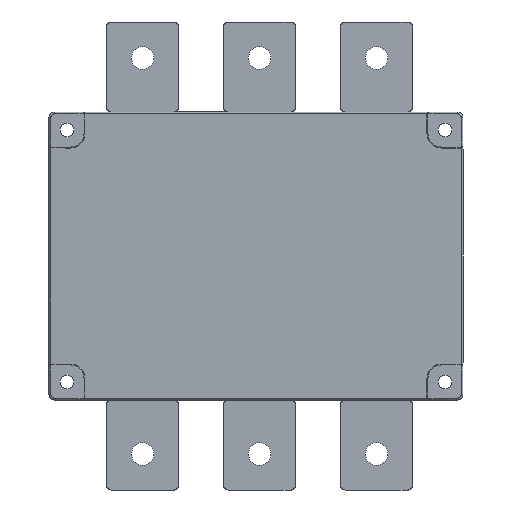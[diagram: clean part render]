
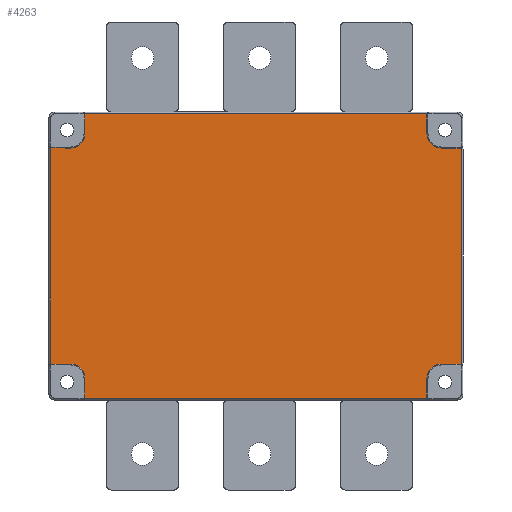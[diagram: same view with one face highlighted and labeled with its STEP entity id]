
A CAD part, front view. The second image highlights one B-rep face of the part: STEP entity #4263.
In plain terms, the highlighted planar face has unit normal (0, -1, 0).
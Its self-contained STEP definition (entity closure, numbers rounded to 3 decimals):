
#1068=DIRECTION('',(0.,0.,1.));
#1069=VECTOR('',#1068,120.);
#1070=CARTESIAN_POINT('',(114.,2.,-60.));
#1071=LINE('',#1070,#1069);
#1085=DIRECTION('',(0.,0.,-1.));
#1086=VECTOR('',#1085,11.);
#1087=CARTESIAN_POINT('',(95.,2.,79.));
#1088=LINE('',#1087,#1086);
#1089=CARTESIAN_POINT('',(103.,2.,68.));
#1090=DIRECTION('',(0.,-1.,0.));
#1091=DIRECTION('',(-1.,0.,0.));
#1092=AXIS2_PLACEMENT_3D('',#1089,#1090,#1091);
#1094=DIRECTION('',(1.,0.,0.));
#1095=VECTOR('',#1094,11.);
#1096=CARTESIAN_POINT('',(103.,2.,60.));
#1097=LINE('',#1096,#1095);
#1098=DIRECTION('',(-1.,0.,0.));
#1099=VECTOR('',#1098,11.);
#1100=CARTESIAN_POINT('',(114.,2.,-60.));
#1101=LINE('',#1100,#1099);
#1102=CARTESIAN_POINT('',(103.,2.,-68.));
#1103=DIRECTION('',(0.,-1.,0.));
#1104=DIRECTION('',(0.,0.,1.));
#1105=AXIS2_PLACEMENT_3D('',#1102,#1103,#1104);
#1107=DIRECTION('',(0.,0.,-1.));
#1108=VECTOR('',#1107,11.);
#1109=CARTESIAN_POINT('',(95.,2.,-68.));
#1110=LINE('',#1109,#1108);
#1111=DIRECTION('',(0.,0.,1.));
#1112=VECTOR('',#1111,11.);
#1113=CARTESIAN_POINT('',(-95.,2.,
-79.));
#1114=LINE('',#1113,#1112);
#1115=CARTESIAN_POINT('',(-103.,2.,-68.));
#1116=DIRECTION('',(0.,-1.,0.));
#1117=DIRECTION('',(1.,0.,0.));
#1118=AXIS2_PLACEMENT_3D('',#1115,#1116,#1117);
#1120=DIRECTION('',(-1.,0.,0.));
#1121=VECTOR('',#1120,11.);
#1122=CARTESIAN_POINT('',(-103.,2.,-60.));
#1123=LINE('',#1122,#1121);
#1124=DIRECTION('',(1.,0.,0.));
#1125=VECTOR('',#1124,11.);
#1126=CARTESIAN_POINT('',(-114.,2.,60.));
#1127=LINE('',#1126,#1125);
#1128=CARTESIAN_POINT('',(-103.,2.,68.));
#1129=DIRECTION('',(0.,-1.,0.));
#1130=DIRECTION('',(0.,0.,-1.));
#1131=AXIS2_PLACEMENT_3D('',#1128,#1129,#1130);
#1133=DIRECTION('',(0.,0.,1.));
#1134=VECTOR('',#1133,11.);
#1135=CARTESIAN_POINT('',(-95.,2.,68.));
#1136=LINE('',#1135,#1134);
#1137=DIRECTION('',(-1.,0.,0.));
#1138=VECTOR('',#1137,190.);
#1139=CARTESIAN_POINT('',(95.,2.,79.));
#1140=LINE('',#1139,#1138);
#1602=DIRECTION('',(0.,0.,-1.));
#1603=VECTOR('',#1602,120.);
#1604=CARTESIAN_POINT('',(-114.,2.,60.));
#1605=LINE('',#1604,#1603);
#1640=DIRECTION('',(1.,0.,0.));
#1641=VECTOR('',#1640,190.);
#1642=CARTESIAN_POINT('',(-95.,2.,
-79.));
#1643=LINE('',#1642,#1641);
#2320=CARTESIAN_POINT('',(95.,2.,79.));
#2321=CARTESIAN_POINT('',(-95.,2.,79.));
#2322=VERTEX_POINT('',#2320);
#2323=VERTEX_POINT('',#2321);
#2324=CARTESIAN_POINT('',(95.,2.,68.));
#2325=VERTEX_POINT('',#2324);
#2326=CARTESIAN_POINT('',(103.,2.,60.));
#2327=VERTEX_POINT('',#2326);
#2328=CARTESIAN_POINT('',(114.,2.,60.));
#2329=VERTEX_POINT('',#2328);
#2330=CARTESIAN_POINT('',(114.,2.,-60.));
#2331=VERTEX_POINT('',#2330);
#2332=CARTESIAN_POINT('',(103.,2.,-60.));
#2333=VERTEX_POINT('',#2332);
#2334=CARTESIAN_POINT('',(95.,2.,-68.));
#2335=VERTEX_POINT('',#2334);
#2336=CARTESIAN_POINT('',(95.,2.,-79.));
#2337=VERTEX_POINT('',#2336);
#2338=CARTESIAN_POINT('',(-95.,2.,
-79.));
#2339=VERTEX_POINT('',#2338);
#2340=CARTESIAN_POINT('',(-95.,2.,-68.));
#2341=VERTEX_POINT('',#2340);
#2342=CARTESIAN_POINT('',(-103.,2.,-60.));
#2343=VERTEX_POINT('',#2342);
#2344=CARTESIAN_POINT('',(-114.,2.,-60.));
#2345=VERTEX_POINT('',#2344);
#2346=CARTESIAN_POINT('',(-114.,2.,60.));
#2347=VERTEX_POINT('',#2346);
#2348=CARTESIAN_POINT('',(-103.,2.,60.));
#2349=VERTEX_POINT('',#2348);
#2350=CARTESIAN_POINT('',(-95.,2.,68.));
#2351=VERTEX_POINT('',#2350);
#4226=CARTESIAN_POINT('',(0.,2.,0.));
#4227=DIRECTION('',(0.,-1.,0.));
#4228=DIRECTION('',(-1.,0.,0.));
#4229=AXIS2_PLACEMENT_3D('',#4226,#4227,#4228);
#4230=PLANE('',#4229);
#4232=ORIENTED_EDGE('',*,*,#4231,.F.);
#4234=ORIENTED_EDGE('',*,*,#4233,.T.);
#4236=ORIENTED_EDGE('',*,*,#4235,.T.);
#4238=ORIENTED_EDGE('',*,*,#4237,.T.);
#4239=ORIENTED_EDGE('',*,*,#4217,.F.);
#4241=ORIENTED_EDGE('',*,*,#4240,.T.);
#4243=ORIENTED_EDGE('',*,*,#4242,.T.);
#4245=ORIENTED_EDGE('',*,*,#4244,.T.);
#4247=ORIENTED_EDGE('',*,*,#4246,.F.);
#4249=ORIENTED_EDGE('',*,*,#4248,.T.);
#4251=ORIENTED_EDGE('',*,*,#4250,.T.);
#4253=ORIENTED_EDGE('',*,*,#4252,.T.);
#4255=ORIENTED_EDGE('',*,*,#4254,.F.);
#4256=ORIENTED_EDGE('',*,*,#2703,.T.);
#4258=ORIENTED_EDGE('',*,*,#4257,.T.);
#4260=ORIENTED_EDGE('',*,*,#4259,.T.);
#4261=EDGE_LOOP('',(#4232,#4234,#4236,#4238,#4239,#4241,#4243,#4245,#4247,#4249,
#4251,#4253,#4255,#4256,#4258,#4260));
#4262=FACE_OUTER_BOUND('',#4261,.F.);
#1093=CIRCLE('',#1092,8.);
#1106=CIRCLE('',#1105,8.);
#1119=CIRCLE('',#1118,8.);
#1132=CIRCLE('',#1131,8.);
#2703=EDGE_CURVE('',#2347,#2349,#1127,.T.);
#4217=EDGE_CURVE('',#2331,#2329,#1071,.T.);
#4231=EDGE_CURVE('',#2322,#2323,#1140,.T.);
#4233=EDGE_CURVE('',#2322,#2325,#1088,.T.);
#4235=EDGE_CURVE('',#2325,#2327,#1093,.T.);
#4237=EDGE_CURVE('',#2327,#2329,#1097,.T.);
#4240=EDGE_CURVE('',#2331,#2333,#1101,.T.);
#4242=EDGE_CURVE('',#2333,#2335,#1106,.T.);
#4244=EDGE_CURVE('',#2335,#2337,#1110,.T.);
#4246=EDGE_CURVE('',#2339,#2337,#1643,.T.);
#4248=EDGE_CURVE('',#2339,#2341,#1114,.T.);
#4250=EDGE_CURVE('',#2341,#2343,#1119,.T.);
#4252=EDGE_CURVE('',#2343,#2345,#1123,.T.);
#4254=EDGE_CURVE('',#2347,#2345,#1605,.T.);
#4257=EDGE_CURVE('',#2349,#2351,#1132,.T.);
#4259=EDGE_CURVE('',#2351,#2323,#1136,.T.);
#4263=ADVANCED_FACE('',(#4262),#4230,.T.);
